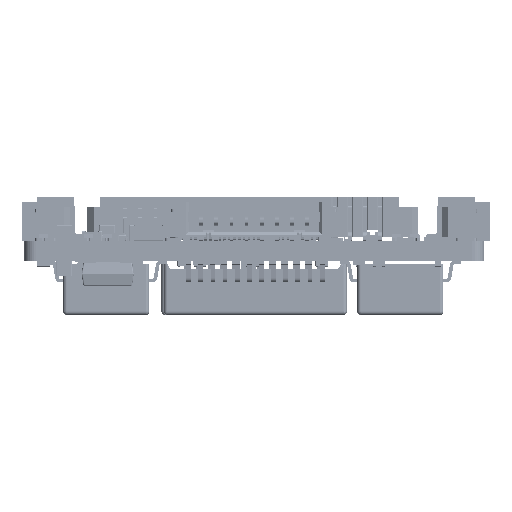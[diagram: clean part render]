
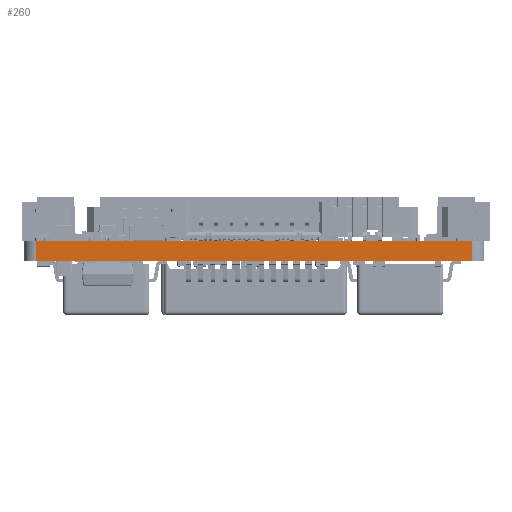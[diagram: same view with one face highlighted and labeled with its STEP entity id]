
A CAD part, left-side view. The second image highlights one B-rep face of the part: STEP entity #260.
In plain terms, the highlighted planar face has unit normal (-1, 0, 0).
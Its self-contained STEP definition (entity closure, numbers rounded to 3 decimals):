
#233 = VERTEX_POINT('',#234);
#234 = CARTESIAN_POINT('',(0.013,1.,    1.6));
#241 = EDGE_CURVE('',#242,#233,#244,.T.);
#242 = VERTEX_POINT('',#243);
#243 = CARTESIAN_POINT('',(0.013,1.,0.));
#244 = LINE('',#245,#246);
#245 = CARTESIAN_POINT('',(0.013,1.,0.));
#246 = VECTOR('',#247,1.);
#247 = DIRECTION('',(0.,0.,1.));
#260 = ADVANCED_FACE('',(#261),#286,.T.);
#261 = FACE_BOUND('',#262,.T.);
#262 = EDGE_LOOP('',(#263,#264,#272,#280));
#263 = ORIENTED_EDGE('',*,*,#241,.T.);
#264 = ORIENTED_EDGE('',*,*,#265,.T.);
#265 = EDGE_CURVE('',#233,#266,#268,.T.);
#266 = VERTEX_POINT('',#267);
#267 = CARTESIAN_POINT('',(0.013,37.,    1.6));
#268 = LINE('',#269,#270);
#269 = CARTESIAN_POINT('',(0.013,1.,    1.6));
#270 = VECTOR('',#271,1.);
#271 = DIRECTION('',(0.,1.,0.));
#272 = ORIENTED_EDGE('',*,*,#273,.F.);
#273 = EDGE_CURVE('',#274,#266,#276,.T.);
#274 = VERTEX_POINT('',#275);
#275 = CARTESIAN_POINT('',(0.013,37.,0.));
#276 = LINE('',#277,#278);
#277 = CARTESIAN_POINT('',(0.013,37.,0.));
#278 = VECTOR('',#279,1.);
#279 = DIRECTION('',(0.,0.,1.));
#280 = ORIENTED_EDGE('',*,*,#281,.F.);
#281 = EDGE_CURVE('',#242,#274,#282,.T.);
#282 = LINE('',#283,#284);
#283 = CARTESIAN_POINT('',(0.013,1.,0.));
#284 = VECTOR('',#285,1.);
#285 = DIRECTION('',(0.,1.,0.));
#286 = PLANE('',#287);
#287 = AXIS2_PLACEMENT_3D('',#288,#289,#290);
#288 = CARTESIAN_POINT('',(0.013,1.,0.));
#289 = DIRECTION('',(-1.,0.,0.));
#290 = DIRECTION('',(0.,1.,0.));
